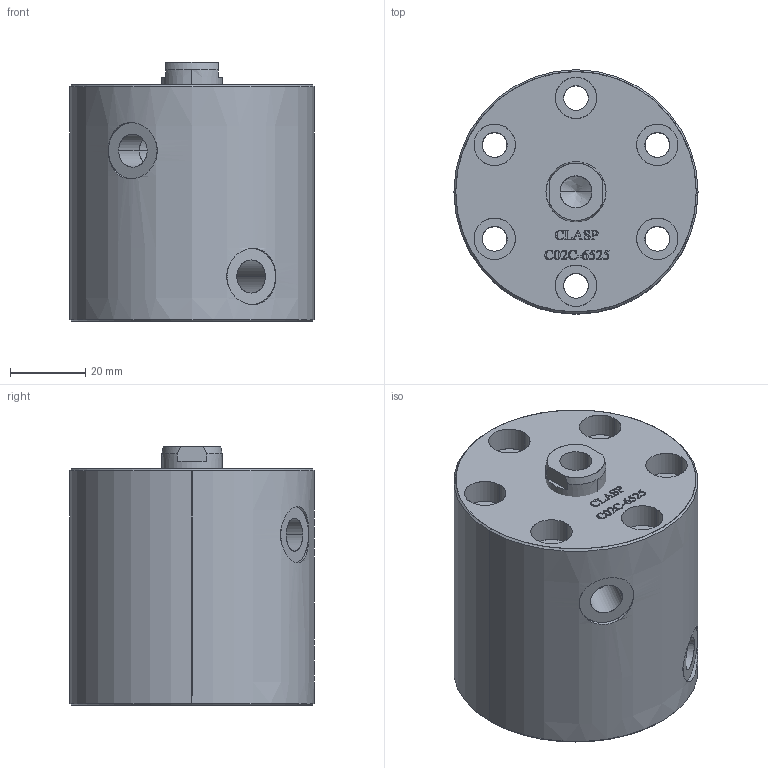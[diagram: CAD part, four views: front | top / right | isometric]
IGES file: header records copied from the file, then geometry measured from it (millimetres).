
Start section: SolidWorks IGES file using analytic representation for surfaces
Global section: file name: D:\karuppas\Clasp\3D model\COMPACT CYLINDER\C02C-6525\C02C-6525.IGS; native system: SolidWorks 2017; preprocessor: SolidWorks 2017; author: pc; date: 220709.232043; units: millimetre
Bounding box: 65 x 65 x 69 mm (x, y, z)
Surface area: 32916.9 mm2 (no closed solid volume)
Topology: 0 solids, 0 shells, 322 faces, 5011 edges, 5007 vertices
Faces by surface type: bspline 271, revolution 51
